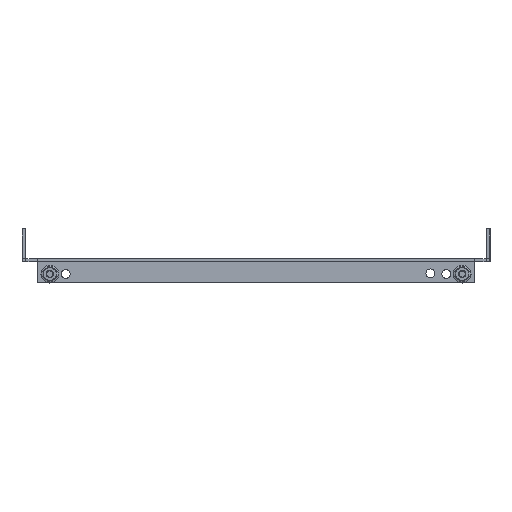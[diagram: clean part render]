
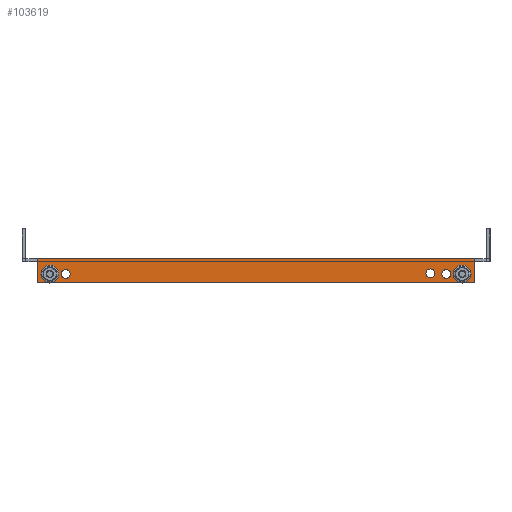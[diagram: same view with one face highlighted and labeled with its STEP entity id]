
A CAD part, left-side view. The second image highlights one B-rep face of the part: STEP entity #103619.
In plain terms, the highlighted planar face has unit normal (-1, 0, 0).
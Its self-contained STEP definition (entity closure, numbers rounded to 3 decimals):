
#88614 = VERTEX_POINT('',#88615);
#88615 = CARTESIAN_POINT('',(-550.,172.5,2.5));
#88621 = EDGE_CURVE('',#88622,#88614,#88624,.T.);
#88622 = VERTEX_POINT('',#88623);
#88623 = CARTESIAN_POINT('',(-550.,-172.5,2.5));
#88624 = LINE('',#88625,#88626);
#88625 = CARTESIAN_POINT('',(-550.,-182.,2.5));
#88626 = VECTOR('',#88627,1.);
#88627 = DIRECTION('',(-0.,1.,-0.));
#103498 = VERTEX_POINT('',#103499);
#103499 = CARTESIAN_POINT('',(-550.,-172.5,-0.6));
#103514 = EDGE_CURVE('',#103498,#88622,#103515,.T.);
#103515 = LINE('',#103516,#103517);
#103516 = CARTESIAN_POINT('',(-550.,-172.5,-0.6));
#103517 = VECTOR('',#103518,1.);
#103518 = DIRECTION('',(0.,-0.,1.));
#103538 = VERTEX_POINT('',#103539);
#103539 = CARTESIAN_POINT('',(-550.,172.5,-0.6));
#103545 = EDGE_CURVE('',#103538,#88614,#103546,.T.);
#103546 = LINE('',#103547,#103548);
#103547 = CARTESIAN_POINT('',(-550.,172.5,0.));
#103548 = VECTOR('',#103549,1.);
#103549 = DIRECTION('',(0.,0.,1.));
#103561 = EDGE_CURVE('',#103562,#103538,#103564,.T.);
#103562 = VERTEX_POINT('',#103563);
#103563 = CARTESIAN_POINT('',(-550.,172.5,-16.5));
#103564 = LINE('',#103565,#103566);
#103565 = CARTESIAN_POINT('',(-550.,172.5,0.));
#103566 = VECTOR('',#103567,1.);
#103567 = DIRECTION('',(0.,-0.,1.));
#103601 = EDGE_CURVE('',#103498,#103602,#103604,.T.);
#103602 = VERTEX_POINT('',#103603);
#103603 = CARTESIAN_POINT('',(-550.,-172.5,-16.5));
#103604 = LINE('',#103605,#103606);
#103605 = CARTESIAN_POINT('',(-550.,-172.5,-16.5));
#103606 = VECTOR('',#103607,1.);
#103607 = DIRECTION('',(0.,-0.,-1.));
#103619 = ADVANCED_FACE('',(#103620,#103631,#103651,#103671,#103682,
    #103693),#103706,.T.);
#103620 = FACE_BOUND('',#103621,.T.);
#103621 = EDGE_LOOP('',(#103622));
#103622 = ORIENTED_EDGE('',*,*,#103623,.T.);
#103623 = EDGE_CURVE('',#103624,#103624,#103626,.T.);
#103624 = VERTEX_POINT('',#103625);
#103625 = CARTESIAN_POINT('',(-550.,-137.5,-12.5));
#103626 = CIRCLE('',#103627,3.5);
#103627 = AXIS2_PLACEMENT_3D('',#103628,#103629,#103630);
#103628 = CARTESIAN_POINT('',(-550.,-137.5,-9.));
#103629 = DIRECTION('',(1.,0.,0.));
#103630 = DIRECTION('',(0.,-0.,-1.));
#103631 = FACE_BOUND('',#103632,.T.);
#103632 = EDGE_LOOP('',(#103633,#103644));
#103633 = ORIENTED_EDGE('',*,*,#103634,.F.);
#103634 = EDGE_CURVE('',#103635,#103637,#103639,.T.);
#103635 = VERTEX_POINT('',#103636);
#103636 = CARTESIAN_POINT('',(-550.,-162.5,-13.));
#103637 = VERTEX_POINT('',#103638);
#103638 = CARTESIAN_POINT('',(-550.,-162.5,-6.));
#103639 = CIRCLE('',#103640,3.5);
#103640 = AXIS2_PLACEMENT_3D('',#103641,#103642,#103643);
#103641 = CARTESIAN_POINT('',(-550.,-162.5,-9.5));
#103642 = DIRECTION('',(-1.,0.,0.));
#103643 = DIRECTION('',(0.,0.,-1.));
#103644 = ORIENTED_EDGE('',*,*,#103645,.F.);
#103645 = EDGE_CURVE('',#103637,#103635,#103646,.T.);
#103646 = CIRCLE('',#103647,3.5);
#103647 = AXIS2_PLACEMENT_3D('',#103648,#103649,#103650);
#103648 = CARTESIAN_POINT('',(-550.,-162.5,-9.5));
#103649 = DIRECTION('',(-1.,0.,0.));
#103650 = DIRECTION('',(0.,0.,-1.));
#103651 = FACE_BOUND('',#103652,.T.);
#103652 = EDGE_LOOP('',(#103653,#103664));
#103653 = ORIENTED_EDGE('',*,*,#103654,.F.);
#103654 = EDGE_CURVE('',#103655,#103657,#103659,.T.);
#103655 = VERTEX_POINT('',#103656);
#103656 = CARTESIAN_POINT('',(-550.,-150.,-13.));
#103657 = VERTEX_POINT('',#103658);
#103658 = CARTESIAN_POINT('',(-550.,-150.,-6.));
#103659 = CIRCLE('',#103660,3.5);
#103660 = AXIS2_PLACEMENT_3D('',#103661,#103662,#103663);
#103661 = CARTESIAN_POINT('',(-550.,-150.,-9.5));
#103662 = DIRECTION('',(-1.,0.,0.));
#103663 = DIRECTION('',(0.,0.,-1.));
#103664 = ORIENTED_EDGE('',*,*,#103665,.F.);
#103665 = EDGE_CURVE('',#103657,#103655,#103666,.T.);
#103666 = CIRCLE('',#103667,3.5);
#103667 = AXIS2_PLACEMENT_3D('',#103668,#103669,#103670);
#103668 = CARTESIAN_POINT('',(-550.,-150.,-9.5));
#103669 = DIRECTION('',(-1.,0.,0.));
#103670 = DIRECTION('',(0.,0.,-1.));
#103671 = FACE_BOUND('',#103672,.T.);
#103672 = EDGE_LOOP('',(#103673));
#103673 = ORIENTED_EDGE('',*,*,#103674,.F.);
#103674 = EDGE_CURVE('',#103675,#103675,#103677,.T.);
#103675 = VERTEX_POINT('',#103676);
#103676 = CARTESIAN_POINT('',(-550.,150.,-6.));
#103677 = CIRCLE('',#103678,3.5);
#103678 = AXIS2_PLACEMENT_3D('',#103679,#103680,#103681);
#103679 = CARTESIAN_POINT('',(-550.,150.,-9.5));
#103680 = DIRECTION('',(-1.,0.,0.));
#103681 = DIRECTION('',(0.,0.,1.));
#103682 = FACE_BOUND('',#103683,.T.);
#103683 = EDGE_LOOP('',(#103684));
#103684 = ORIENTED_EDGE('',*,*,#103685,.F.);
#103685 = EDGE_CURVE('',#103686,#103686,#103688,.T.);
#103686 = VERTEX_POINT('',#103687);
#103687 = CARTESIAN_POINT('',(-550.,162.5,-6.));
#103688 = CIRCLE('',#103689,3.5);
#103689 = AXIS2_PLACEMENT_3D('',#103690,#103691,#103692);
#103690 = CARTESIAN_POINT('',(-550.,162.5,-9.5));
#103691 = DIRECTION('',(-1.,0.,0.));
#103692 = DIRECTION('',(0.,0.,1.));
#103693 = FACE_BOUND('',#103694,.T.);
#103694 = EDGE_LOOP('',(#103695,#103696,#103697,#103698,#103699,#103700)
  );
#103695 = ORIENTED_EDGE('',*,*,#103601,.F.);
#103696 = ORIENTED_EDGE('',*,*,#103514,.T.);
#103697 = ORIENTED_EDGE('',*,*,#88621,.T.);
#103698 = ORIENTED_EDGE('',*,*,#103545,.F.);
#103699 = ORIENTED_EDGE('',*,*,#103561,.F.);
#103700 = ORIENTED_EDGE('',*,*,#103701,.F.);
#103701 = EDGE_CURVE('',#103602,#103562,#103702,.T.);
#103702 = LINE('',#103703,#103704);
#103703 = CARTESIAN_POINT('',(-550.,172.5,-16.5));
#103704 = VECTOR('',#103705,1.);
#103705 = DIRECTION('',(-0.,1.,-0.));
#103706 = PLANE('',#103707);
#103707 = AXIS2_PLACEMENT_3D('',#103708,#103709,#103710);
#103708 = CARTESIAN_POINT('',(-550.,172.5,0.));
#103709 = DIRECTION('',(-1.,0.,0.));
#103710 = DIRECTION('',(0.,0.,1.));
